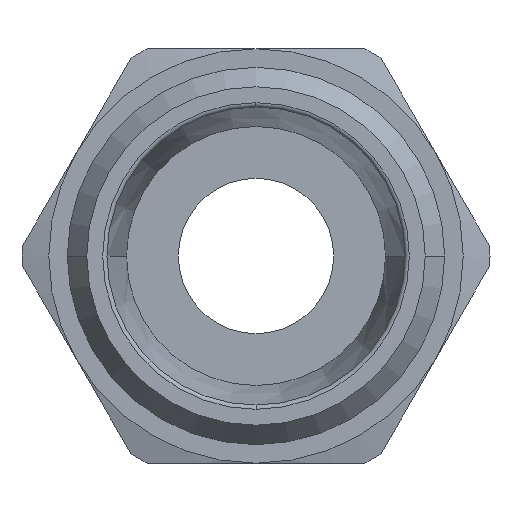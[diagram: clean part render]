
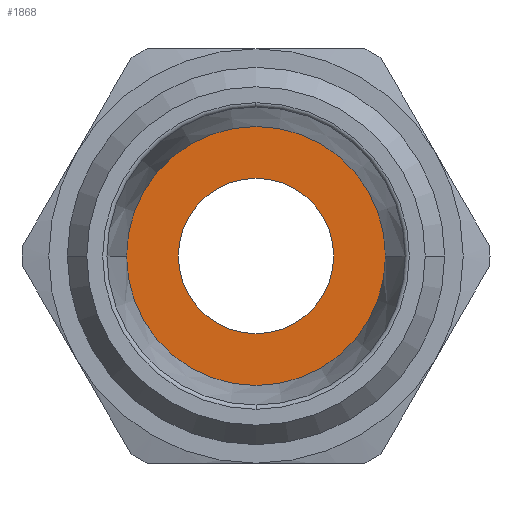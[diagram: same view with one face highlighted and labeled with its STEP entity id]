
A CAD part, left-side view. The second image highlights one B-rep face of the part: STEP entity #1868.
In plain terms, the highlighted planar face has unit normal (-1, 0, 0) as drawn and (0, 0, 1) by its records, which use the part's own axes.
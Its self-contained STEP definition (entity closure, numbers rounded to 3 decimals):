
#767=CARTESIAN_POINT('',(0.,-7.5,7.85));
#768=VERTEX_POINT('',#767);
#784=CARTESIAN_POINT('',(0.,7.5,7.85));
#785=VERTEX_POINT('',#784);
#792=CARTESIAN_POINT('',(0.,0.,7.85));
#793=DIRECTION('',(0.0,0.0,-1.0));
#794=DIRECTION('',(0.0,-1.0,0.0));
#795=AXIS2_PLACEMENT_3D('',#792,#793,#794);
#796=CIRCLE('',#795,7.5);
#797=EDGE_CURVE('',#785,#768,#796,.T.);
#1256=CARTESIAN_POINT('',(0.,4.5,7.85));
#1257=VERTEX_POINT('',#1256);
#1266=CARTESIAN_POINT('',(0.,-4.5,7.85));
#1267=VERTEX_POINT('',#1266);
#1268=CARTESIAN_POINT('',(0.,0.,7.85));
#1269=DIRECTION('',(0.0,0.0,-1.0));
#1270=DIRECTION('',(0.0,1.0,0.0));
#1271=AXIS2_PLACEMENT_3D('',#1268,#1269,#1270);
#1272=CIRCLE('',#1271,4.5);
#1273=EDGE_CURVE('',#1267,#1257,#1272,.T.);
#1555=CARTESIAN_POINT('',(0.,0.,7.85));
#1556=DIRECTION('',(0.0,0.0,-1.0));
#1557=DIRECTION('',(0.0,1.0,0.0));
#1558=AXIS2_PLACEMENT_3D('',#1555,#1556,#1557);
#1559=CIRCLE('',#1558,4.5);
#1560=EDGE_CURVE('',#1257,#1267,#1559,.T.);
#1849=CARTESIAN_POINT('',(0.,-3.75,7.85));
#1850=DIRECTION('',(0.0,0.0,1.0));
#1851=DIRECTION('',(-1.0,0.0,0.0));
#1852=AXIS2_PLACEMENT_3D('',#1849,#1850,#1851);
#1853=PLANE('',#1852);
#1854=CARTESIAN_POINT('',(0.,0.,7.85));
#1855=DIRECTION('',(0.0,0.0,-1.0));
#1856=DIRECTION('',(0.0,-1.0,0.0));
#1857=AXIS2_PLACEMENT_3D('',#1854,#1855,#1856);
#1858=CIRCLE('',#1857,7.5);
#1859=EDGE_CURVE('',#768,#785,#1858,.T.);
#1860=ORIENTED_EDGE('',*,*,#1859,.F.);
#1861=ORIENTED_EDGE('',*,*,#797,.F.);
#1862=EDGE_LOOP('',(#1860,#1861));
#1863=FACE_OUTER_BOUND('',#1862,.T.);
#1864=ORIENTED_EDGE('',*,*,#1273,.T.);
#1865=ORIENTED_EDGE('',*,*,#1560,.T.);
#1866=EDGE_LOOP('',(#1864,#1865));
#1867=FACE_BOUND('',#1866,.T.);
#1868=ADVANCED_FACE('',(#1863,#1867),#1853,.T.);
